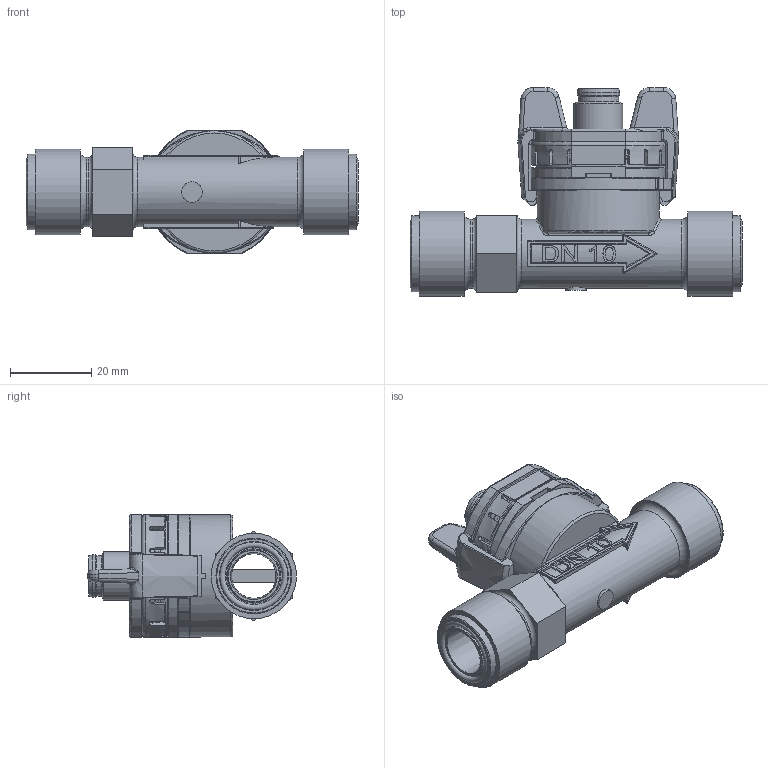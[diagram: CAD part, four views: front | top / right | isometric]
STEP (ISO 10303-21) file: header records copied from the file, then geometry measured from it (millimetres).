
FILE_DESCRIPTION(/* description */ (''),/* implementation_level */ '2;1');
FILE_NAME(/* name */ '210_x11x4xK.stp',/* time_stamp */ '2023-06-28T09:17:30+02:00',/* author */ ('uch10180'),/* organization */ (''),/* preprocessor_version */ 'ST-DEVELOPER v19.2',/* originating_system */ 'Autodesk Inventor 2023',/* authorisation */ '');
FILE_SCHEMA (('AUTOMOTIVE_DESIGN { 1 0 10303 214 3 1 1 }'));
Length unit declared in the file: millimetre
Products named in the file (3): Assembly1; Vi0650718Atk2i; model1
Assembly tree (2 placements, depth 2):
  Assembly1
    Vi0650718Atk2i
    model1
Bounding box: 81.55 x 51.33 x 30.2 mm (x, y, z)
Volume: 34324.4 mm3; surface area: 21008.9 mm2
Topology: 5 solids, 5 shells, 1000 faces, 2632 edges, 1656 vertices
Faces by surface type: plane 354, cylinder 255, bspline 205, cone 87, torus 81, sphere 18
Full cylindrical faces by diameter (mm): 1 x3, 5 x1, 5.76 x3, 7.98 x4, 8.15 x2, 10 x1, 10.4 x1, 12 x1, 12.85 x2, 15.17 x1, 15.4 x1, 16.75 x2, 17 x2, 18.6 x2, 20.955 x2, 30 x1
Entity records: 43088 total; most frequent: CARTESIAN_POINT 18588, ORIENTED_EDGE 5220, DIRECTION 4658, EDGE_CURVE 2610, AXIS2_PLACEMENT_3D 1793, VERTEX_POINT 1656, LINE 1072, VECTOR 1072
